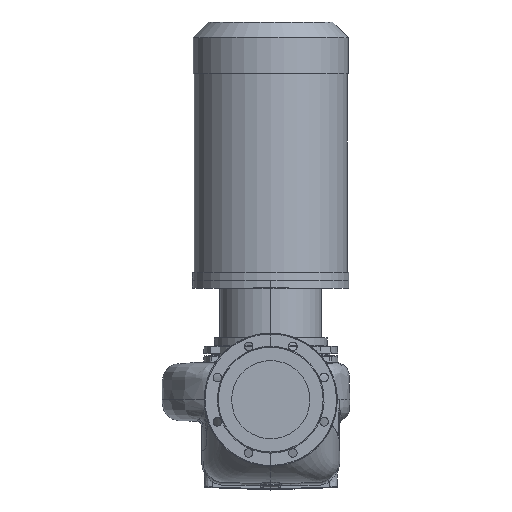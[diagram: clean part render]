
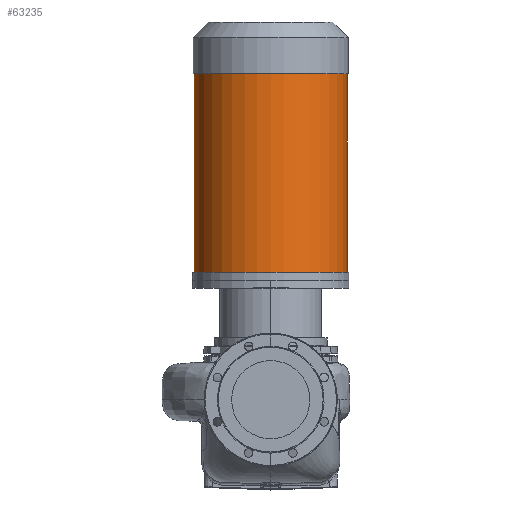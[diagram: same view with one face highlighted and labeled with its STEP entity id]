
A CAD part, top view. The second image highlights one B-rep face of the part: STEP entity #63235.
In plain terms, the highlighted cylindrical face has radius 195.5 mm (diameter 391 mm), a partial arc.
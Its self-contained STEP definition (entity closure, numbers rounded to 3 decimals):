
#127 = VECTOR ( 'NONE', #61423, 1000. ) ;
#144 = LINE ( 'NONE', #52025, #32763 ) ;
#639 = VERTEX_POINT ( 'NONE', #11450 ) ;
#2092 = CARTESIAN_POINT ( 'NONE',  ( 195.5, 305.8, 0. ) ) ;
#5817 = AXIS2_PLACEMENT_3D ( 'NONE', #48342, #27833, #53721 ) ;
#6362 = CARTESIAN_POINT ( 'NONE',  ( -195.5, 833.8, 0. ) ) ;
#8577 = CARTESIAN_POINT ( 'NONE',  ( 0., 305.8, 0. ) ) ;
#9432 = ORIENTED_EDGE ( 'NONE', *, *, #41490, .T. ) ;
#11450 = CARTESIAN_POINT ( 'NONE',  ( 195.5, 833.8, 0. ) ) ;
#11666 = ORIENTED_EDGE ( 'NONE', *, *, #26592, .T. ) ;
#13643 = CYLINDRICAL_SURFACE ( 'NONE', #57759, 195.5 ) ;
#14475 = CARTESIAN_POINT ( 'NONE',  ( 195.5, 325.8, 0. ) ) ;
#14992 = VERTEX_POINT ( 'NONE', #6362 ) ;
#19561 = ORIENTED_EDGE ( 'NONE', *, *, #57634, .F. ) ;
#20734 = DIRECTION ( 'NONE',  ( 0., -1., 0. ) ) ;
#22420 = CIRCLE ( 'NONE', #55136, 195.5 ) ;
#26592 = EDGE_CURVE ( 'NONE', #639, #14992, #22420, .T. ) ;
#27833 = DIRECTION ( 'NONE',  ( 0., -1., 0. ) ) ;
#30298 = LINE ( 'NONE', #2092, #127 ) ;
#32763 = VECTOR ( 'NONE', #45979, 1000. ) ;
#33912 = EDGE_CURVE ( 'NONE', #56182, #42896, #50541, .T. ) ;
#41490 = EDGE_CURVE ( 'NONE', #14992, #42896, #144, .T. ) ;
#42896 = VERTEX_POINT ( 'NONE', #69183 ) ;
#45979 = DIRECTION ( 'NONE',  ( 0., -1., 0. ) ) ;
#46181 = DIRECTION ( 'NONE',  ( 0., -1., 0. ) ) ;
#48342 = CARTESIAN_POINT ( 'NONE',  ( 0., 325.8, 0. ) ) ;
#50541 = CIRCLE ( 'NONE', #5817, 195.5 ) ;
#52025 = CARTESIAN_POINT ( 'NONE',  ( -195.5, 305.8, 0. ) ) ;
#53721 = DIRECTION ( 'NONE',  ( -1., 0., 0. ) ) ;
#55136 = AXIS2_PLACEMENT_3D ( 'NONE', #63436, #20734, #68851 ) ;
#56182 = VERTEX_POINT ( 'NONE', #14475 ) ;
#57634 = EDGE_CURVE ( 'NONE', #639, #56182, #30298, .T. ) ;
#57759 = AXIS2_PLACEMENT_3D ( 'NONE', #8577, #46181, #65002 ) ;
#58731 = ORIENTED_EDGE ( 'NONE', *, *, #33912, .F. ) ;
#61423 = DIRECTION ( 'NONE',  ( 0., -1., 0. ) ) ;
#63235 = ADVANCED_FACE ( 'NONE', ( #64651 ), #13643, .T. ) ;
#63436 = CARTESIAN_POINT ( 'NONE',  ( 0., 833.8, 0. ) ) ;
#64651 = FACE_OUTER_BOUND ( 'NONE', #68431, .T. ) ;
#65002 = DIRECTION ( 'NONE',  ( -1., 0., 0. ) ) ;
#68431 = EDGE_LOOP ( 'NONE', ( #19561, #11666, #9432, #58731 ) ) ;
#68851 = DIRECTION ( 'NONE',  ( -1., 0., 0. ) ) ;
#69183 = CARTESIAN_POINT ( 'NONE',  ( -195.5, 325.8, 0. ) ) ;
